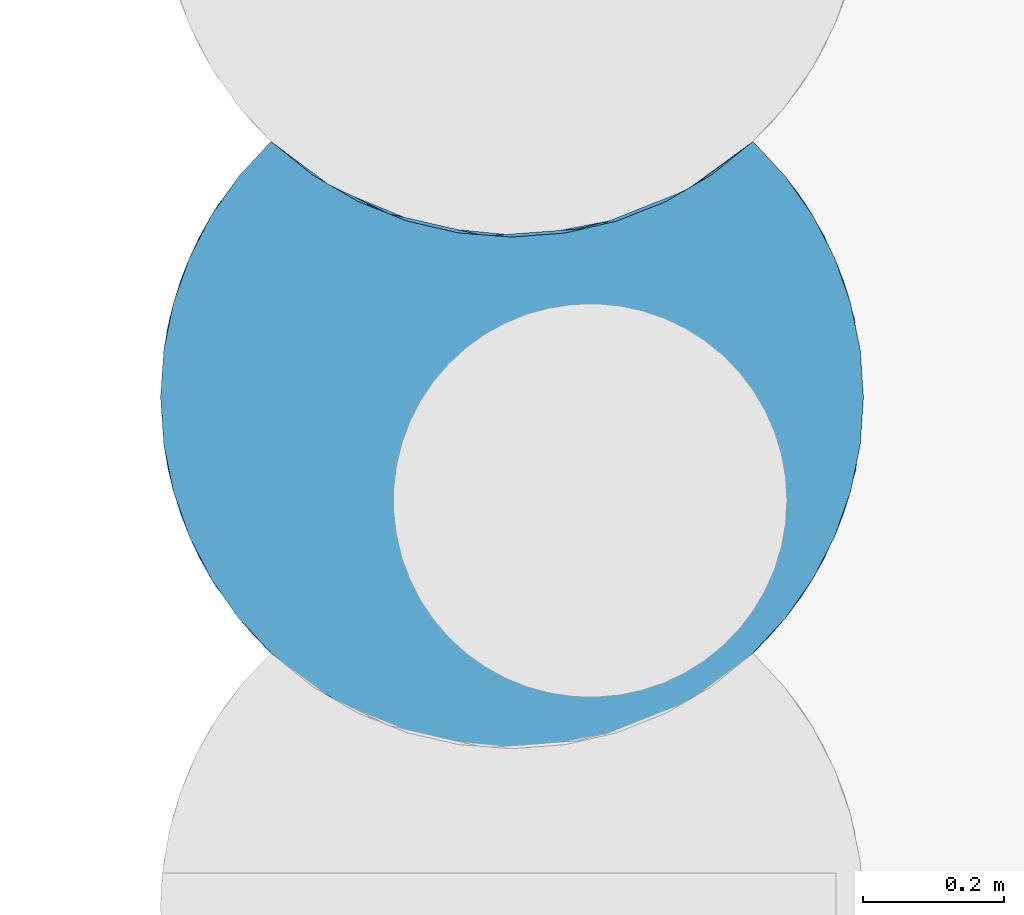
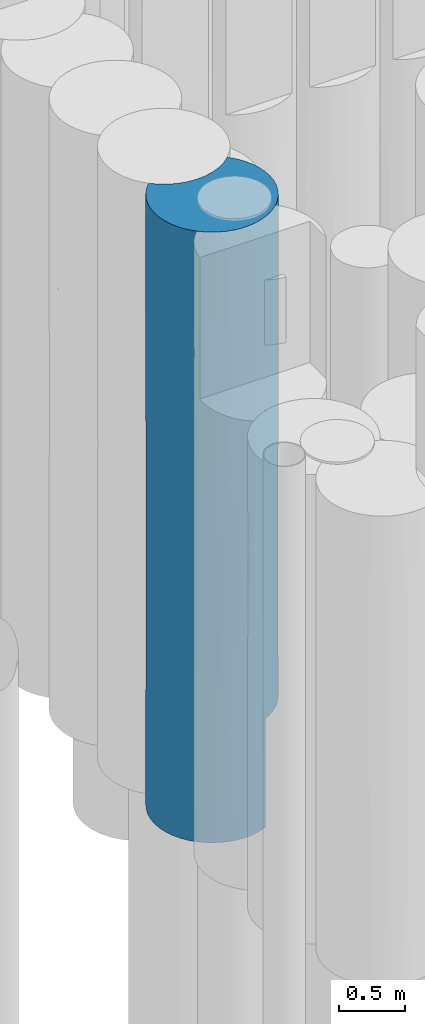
# One storey, part 35 of 104: 1 pile.
"""IFC2X3 building model written with IfcOpenShell, lengths in millimetres."""

from ifc_helpers import new_model, entity, si_unit, converted_unit, derived_unit, direction, frame, origin, place, context, subcontext, project, spatial, faceted_brep, source, transform, mapped, material, element, save


model = new_model("IFC2X3")

# Units and contexts
model_context = context("Model", 3, precision=0.01, world=origin(), true_north=direction((6.12303176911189e-17, 1.0)))
body_context = subcontext(model_context, "Body", "Model", "MODEL_VIEW")
ifc_project = project(units=[si_unit("LENGTHUNIT", "METRE", prefix="MILLI"), si_unit("AREAUNIT", "SQUARE_METRE", prefix="MILLI"), si_unit("VOLUMEUNIT", "CUBIC_METRE"), converted_unit("PLANEANGLEUNIT", "DEGREE", entity("IfcRatioMeasure", 0.0174532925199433), si_unit("PLANEANGLEUNIT", "RADIAN"), dimensions=[0, 0, 0, 0, 0, 0, 0]), si_unit("MASSUNIT", "GRAM", prefix="KILO"), derived_unit("MASSDENSITYUNIT", [(si_unit("MASSUNIT", "GRAM", prefix="KILO"), 1), (si_unit("LENGTHUNIT", "METRE"), -3)]), derived_unit("MOMENTOFINERTIAUNIT", [(si_unit("LENGTHUNIT", "METRE"), 4)]), si_unit("TIMEUNIT", "SECOND"), si_unit("FREQUENCYUNIT", "HERTZ"), si_unit("THERMODYNAMICTEMPERATUREUNIT", "DEGREE_CELSIUS"), derived_unit("THERMALTRANSMITTANCEUNIT", [(si_unit("MASSUNIT", "GRAM", prefix="KILO"), 1), (si_unit("THERMODYNAMICTEMPERATUREUNIT", "KELVIN"), -1), (si_unit("TIMEUNIT", "SECOND"), -3)]), derived_unit("VOLUMETRICFLOWRATEUNIT", [(si_unit("LENGTHUNIT", "METRE"), 3), (si_unit("TIMEUNIT", "SECOND"), -1)]), si_unit("ELECTRICCURRENTUNIT", "AMPERE"), si_unit("ELECTRICVOLTAGEUNIT", "VOLT"), si_unit("POWERUNIT", "WATT"), si_unit("FORCEUNIT", "NEWTON", prefix="KILO"), si_unit("ILLUMINANCEUNIT", "LUX"), si_unit("LUMINOUSFLUXUNIT", "LUMEN"), si_unit("LUMINOUSINTENSITYUNIT", "CANDELA"), derived_unit("USERDEFINED", [(si_unit("MASSUNIT", "GRAM", prefix="KILO"), -1), (si_unit("LENGTHUNIT", "METRE"), -2), (si_unit("TIMEUNIT", "SECOND"), 3), (si_unit("LUMINOUSFLUXUNIT", "LUMEN"), 1)]), derived_unit("LINEARVELOCITYUNIT", [(si_unit("LENGTHUNIT", "METRE"), 1), (si_unit("TIMEUNIT", "SECOND"), -1)]), si_unit("PRESSUREUNIT", "PASCAL"), derived_unit("USERDEFINED", [(si_unit("LENGTHUNIT", "METRE"), -2), (si_unit("MASSUNIT", "GRAM", prefix="KILO"), 1), (si_unit("TIMEUNIT", "SECOND"), -2)]), derived_unit("LINEARFORCEUNIT", [(si_unit("MASSUNIT", "GRAM", prefix="KILO"), 1), (si_unit("LENGTHUNIT", "METRE"), 1), (si_unit("TIMEUNIT", "SECOND"), -2), (si_unit("LENGTHUNIT", "METRE"), -1)]), derived_unit("PLANARFORCEUNIT", [(si_unit("MASSUNIT", "GRAM", prefix="KILO"), 1), (si_unit("LENGTHUNIT", "METRE"), 1), (si_unit("TIMEUNIT", "SECOND"), -2), (si_unit("LENGTHUNIT", "METRE"), -2)])], contexts=[model_context])

# Site, building, storey
site_placement = place(None, origin())
site = spatial("IfcSite", under=ifc_project, at=site_placement, Name="Theater aan de Parade", CompositionType="ELEMENT")
building_placement = place(site_placement, origin())
building = spatial("IfcBuilding", under=site, at=building_placement, Name="Theater aan de Parade", CompositionType="ELEMENT")
storey_placement = place(building_placement, frame((0.0, 0.0, -5520.0)))
storey = spatial("IfcBuildingStorey", under=building, at=storey_placement, Name="-2 kelder", CompositionType="ELEMENT", Elevation=-5520.0)

# Pile
ifc_material = material(Name="00_PBT_MAT_grout")
shared_shape = source(origin(), body_context, "Body", "Brep", [
    faceted_brep([(277.983647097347, 782.384090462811, 0.0), (345.360214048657, 754.631477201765, 0.0), (416.054292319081, 736.966871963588, 0.0), (488.564411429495, 729.765104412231, 0.0), (561.350615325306, 733.17881504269, 0.0), (632.867156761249, 747.135230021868, 0.0), (701.595316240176, 771.337721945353, 0.0), (701.595316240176, 43.3377219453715, 0.0), (632.861071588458, 19.1335743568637, 0.0), (561.341488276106, 5.17771647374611, 0.0), (488.55325423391, 1.76539541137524, 0.0), (416.042931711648, 8.9688447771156, 0.0), (345.350318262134, 26.6347324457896, 0.0), (277.976547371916, 54.3876404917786, 0.0), (215.352244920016, 91.6380435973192, 0.0), (158.803286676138, 137.6056309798, 0.0), (112.656322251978, 187.387549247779, 0.0), (73.6765052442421, 242.972904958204, 0.0), (42.5853143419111, 303.328132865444, 0.0), (19.9560911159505, 367.342900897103, 0.0), (6.20801873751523, 433.83489243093, 0.0), (1.5952722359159, 501.595272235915, 0.0), (6.20818208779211, 569.3568462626, 0.0), (19.955508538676, 635.845553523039, 0.0), (42.583337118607, 699.857834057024, 0.0), (73.6726367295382, 760.211238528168, 0.0), (112.651085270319, 815.796512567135, 0.0), (158.80670766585, 865.59527223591, 0.0), (215.356100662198, 819.635351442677, 0.0), (844.383836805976, 865.59527223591, 2561.53757028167), (925.562729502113, 766.645447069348, 2004.37664659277), (890.538738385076, 815.797404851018, 1000.0), (844.383836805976, 865.59527223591, 1000.0), (960.61285484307, 699.844758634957, 1000.0), (973.014264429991, 668.22100193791, 2043.51621874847), (929.521362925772, 760.205521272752, 1000.0), (988.918247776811, 613.471621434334, 3074.8464073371), (946.092881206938, 730.553512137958, 2936.01181508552), (996.982276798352, 569.35747195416, 5620.0), (973.01057745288, 668.231432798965, 4223.55865313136), (983.235934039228, 635.842331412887, 5620.0), (1001.59527223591, 501.595272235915, 1000.0), (996.985169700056, 569.336319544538, 1000.0), (1001.59527223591, 501.595272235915, 2561.53772996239), (983.239874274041, 635.828194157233, 1000.0), (1001.59527223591, 501.595272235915, 5620.0), (1001.59527223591, 501.595272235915, 4123.0754599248), (921.086992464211, 773.673747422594, 3953.28672590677), (910.979243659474, 788.657571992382, 4807.59706393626), (844.383836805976, 865.59527223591, 5620.0), (890.546518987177, 815.787773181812, 5620.0), (929.522999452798, 760.202813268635, 5620.0), (960.609902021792, 699.851595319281, 5620.0), (844.38383680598, 865.59527223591, 4123.07557016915), (134.889135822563, 161.703216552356, 1387.6537900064), (57.1053071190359, 272.622193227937, 1043.55298077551), (77.4295682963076, 236.862471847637, 3732.46969076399), (57.0986428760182, 272.635130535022, 4676.41921043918), (30.1799661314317, 334.959114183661, 3903.08946832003), (80.5921488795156, 231.861384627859, 2115.29297336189), (17.9787583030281, 374.650136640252, 1004.4354331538), (245.98492487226, 71.8705343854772, 950.268780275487), (1.5952722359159, 501.595272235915, 4058.46482087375), (11.9517035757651, 400.357059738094, 4676.41592085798), (1.5952722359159, 501.595272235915, 5620.0), (6.20826767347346, 433.833072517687, 5620.0), (112.644025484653, 187.402771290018, 5620.0), (134.878781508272, 161.714388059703, 4258.15025045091), (525.009616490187, 2.14380464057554, 1462.58935629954), (380.374383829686, 16.5122935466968, 950.269609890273), (344.134639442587, 27.0363727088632, 3463.60033950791), (249.344536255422, 69.8898562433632, 3910.63302773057), (283.246122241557, 51.7912608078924, 2817.04243556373), (996.982276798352, 433.83307251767, 5620.0), (973.010578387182, 334.959114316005, 4401.73379938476), (158.806707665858, 137.59527223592, 5620.0), (868.311763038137, 161.714388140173, 4220.64805884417), (753.846008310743, 69.8898562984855, 4474.12332022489), (777.063915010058, 84.3219483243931, 3303.49543864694), (720.545942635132, 52.0837552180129, 5620.0), (650.395275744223, 24.2499475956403, 5620.0), (632.213529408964, 18.9578608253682, 4763.8820873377), (539.331900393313, 3.0213590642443, 4658.26851578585), (506.990602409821, 1.62438267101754, 3686.89357512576), (613.944699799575, 14.3811446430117, 3907.57254843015), (311.157199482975, 39.2822392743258, 1702.73276851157), (960.608068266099, 303.334703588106, 1000.0), (983.237088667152, 367.35235560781, 1000.0), (973.010524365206, 334.958961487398, 2218.26297027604), (1.5952722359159, 501.595272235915, 3123.07035825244), (19.9546104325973, 367.34821305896, 5620.0), (44.1578120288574, 299.726577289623, 2919.61020126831), (134.889135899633, 161.70321646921, 2809.99443914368), (30.1828485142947, 334.950960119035, 1936.10278825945), (11.632888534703, 401.911459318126, 2715.80418923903), (42.5806424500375, 303.338949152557, 5620.0), (73.6675450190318, 242.987731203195, 5620.0), (210.33848796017, 95.1847831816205, 1973.56661371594), (203.830541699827, 99.9285381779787, 3144.87709953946), (249.344536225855, 69.8898562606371, 4800.54953955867), (282.644601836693, 52.0837552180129, 5620.0), (217.483259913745, 90.1583214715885, 5620.0), (616.668596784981, 15.0172928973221, 1813.49239707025), (605.423121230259, 12.4942828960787, 898.43797945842), (576.853265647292, 7.29148464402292, 5620.0), (501.595272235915, 1.5952722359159, 5620.0), (389.24584477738, 14.3811446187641, 4236.80661635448), (352.795268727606, 24.2499475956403, 5620.0), (426.337278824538, 7.29148464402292, 5620.0), (752.718177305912, 69.2328241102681, 1000.0), (706.241744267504, 45.39375811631, 2271.23175715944), (701.595316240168, 43.3377219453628, 1000.0), (990.787983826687, 398.200441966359, 3331.95295130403), (996.984106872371, 433.846452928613, 1000.0), (800.505678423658, 100.780390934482, 1000.0), (822.972350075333, 118.55901567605, 2196.87374705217), (1.5952722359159, 501.595272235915, 1561.53517912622), (912.474389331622, 216.677124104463, 2242.39719517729), (929.515196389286, 242.974819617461, 1000.0), (844.383836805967, 137.595272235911, 1000.0), (927.789541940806, 240.14079346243, 4627.43324064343), (890.546518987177, 187.402771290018, 5620.0), (785.707284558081, 90.1583214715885, 5620.0), (983.235934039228, 367.348213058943, 5620.0), (703.993537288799, 44.3918795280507, 3751.3726491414), (585.475880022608, 8.68144240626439, 2686.9745309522), (844.383836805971, 137.59527223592, 5620.0), (866.129625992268, 159.375014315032, 3135.28364369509), (890.532271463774, 187.385134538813, 1000.0), (960.609902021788, 303.338949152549, 5620.0), (946.091901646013, 272.63513063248, 3310.00287078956), (929.522999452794, 242.987731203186, 5620.0), (412.137178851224, 9.6631127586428, 1890.85662457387), (452.166694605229, 4.04445501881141, 2805.10305387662), (365.43385933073, 20.4923002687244, 2602.55453647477), (785.695330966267, 818.150067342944, 5620.0), (720.53458465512, 780.078223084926, 5620.0), (650.386060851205, 752.247075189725, 5620.0), (576.847851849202, 735.290660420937, 5620.0), (501.595272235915, 729.595272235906, 5620.0), (426.342692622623, 735.290660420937, 5620.0), (352.804483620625, 752.247075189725, 5620.0), (282.655959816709, 780.078223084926, 5620.0), (217.495213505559, 818.150067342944, 5620.0), (158.80670766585, 865.59527223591, 5620.0), (112.651085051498, 815.796512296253, 5620.0), (73.6726367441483, 760.211238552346, 5620.0), (42.5833372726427, 699.857834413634, 5620.0), (19.9555086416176, 635.84555389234, 5620.0), (6.20818208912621, 569.356846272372, 5620.0), (380.385030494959, 744.50963309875, 924.275465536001), (158.80670766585, 865.59527223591, 1561.53835800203), (245.990356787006, 799.867303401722, 924.276593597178), (234.516339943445, 806.902897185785, 2528.73879673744), (311.165685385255, 767.278743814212, 1643.61885605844), (233.568091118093, 807.503540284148, 1720.94598732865), (249.356261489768, 797.883005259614, 4653.15154121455), (613.937329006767, 742.379445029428, 4657.5864905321), (753.83428304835, 797.883005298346, 4657.58649064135), (463.861374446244, 731.021152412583, 4239.53806968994), (568.099118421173, 734.037769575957, 3565.77493434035), (525.01978227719, 730.14428131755, 1444.27819300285), (229.918347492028, 809.843382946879, 3590.76885371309), (158.80670766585, 865.59527223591, 3123.07671600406), (158.80670766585, 865.59527223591, 4058.46164199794), (463.861374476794, 731.02115241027, 2816.1191413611), (317.204383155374, 764.837270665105, 3895.88208545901), (335.873418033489, 757.857774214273, 2764.08817655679), (335.460581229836, 758.003007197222, 4756.81311890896), (668.838073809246, 758.394842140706, 2439.83993683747), (744.325145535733, 792.465762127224, 2923.53519747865), (764.865708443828, 804.520364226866, 2048.02698245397), (701.595316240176, 771.337721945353, 1000.0), (605.974790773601, 740.611718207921, 894.949894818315), (685.986161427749, 764.83727070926, 3905.98762819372), (772.723458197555, 809.488730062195, 3773.137560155), (800.501613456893, 828.777359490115, 1000.0), (414.783427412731, 737.189236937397, 1897.22784494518), (566.969314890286, 733.887460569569, 2589.73847091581), (752.696294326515, 797.220114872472, 1000.0), (158.80670766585, 865.59527223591, 2496.92232234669), (57.102452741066, 730.562810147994, 1018.52402144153), (85.1504971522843, 778.314894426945, 2044.13391688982), (30.1816558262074, 668.23621037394, 1881.69076385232), (30.1816560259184, 668.236210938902, 4576.5183253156), (11.9519782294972, 602.83481310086, 1018.52772992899), (77.6358010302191, 766.658220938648, 4615.63922128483), (57.1024528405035, 730.56281034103, 3684.03274752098), (82.4179959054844, 774.157945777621, 2928.9250106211), (38.2329027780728, 689.465745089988, 2818.71767273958), (14.6796564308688, 615.231459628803, 3556.7607665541), (9.93850407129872, 592.554726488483, 2577.75842466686)], [[[0, 1, 2, 3, 4, 5, 6, 7, 8, 9, 10, 11, 12, 13, 14, 15, 16, 17, 18, 19, 20, 21, 22, 23, 24, 25, 26, 27, 28]], [[29, 30, 31]], [[29, 31, 32]], [[33, 30, 34]], [[33, 35, 30]], [[36, 34, 37]], [[38, 39, 40]], [[41, 42, 43]], [[42, 44, 34]], [[38, 45, 46]], [[34, 36, 43]], [[38, 46, 39]], [[39, 47, 48]], [[48, 49, 50]], [[44, 33, 34]], [[36, 46, 43]], [[50, 51, 48]], [[42, 34, 43]], [[37, 47, 39]], [[46, 36, 39]], [[39, 52, 40]], [[48, 52, 39]], [[37, 39, 36]], [[31, 30, 35]], [[37, 34, 30]], [[29, 37, 30]], [[47, 29, 53]], [[29, 47, 37]], [[49, 48, 53]], [[48, 51, 52]], [[53, 48, 47]], [[54, 55, 16]], [[56, 57, 58]], [[59, 55, 54]], [[60, 20, 19]], [[14, 13, 61]], [[62, 58, 63]], [[64, 63, 65]], [[18, 55, 60]], [[54, 16, 15]], [[66, 57, 67]], [[68, 69, 10]], [[70, 71, 72]], [[73, 74, 46]], [[61, 12, 69]], [[75, 66, 67]], [[76, 77, 78]], [[79, 80, 81]], [[11, 69, 12]], [[61, 13, 12]], [[82, 83, 84]], [[16, 55, 17]], [[69, 85, 61]], [[60, 19, 18]], [[63, 58, 57]], [[55, 18, 17]], [[86, 87, 88]], [[62, 89, 58]], [[90, 65, 63]], [[91, 92, 56]], [[93, 91, 94]], [[63, 57, 90]], [[56, 67, 57]], [[90, 57, 95]], [[57, 96, 95]], [[97, 72, 98]], [[54, 61, 97]], [[67, 99, 75]], [[99, 100, 101]], [[102, 68, 103]], [[82, 104, 105]], [[106, 107, 99]], [[106, 108, 107]], [[82, 84, 81]], [[72, 71, 98]], [[109, 110, 111]], [[10, 69, 11]], [[111, 103, 8]], [[112, 88, 43]], [[113, 88, 87]], [[7, 111, 8]], [[109, 114, 115]], [[94, 116, 93]], [[67, 71, 99]], [[110, 115, 78]], [[9, 68, 10]], [[93, 60, 55]], [[43, 88, 113]], [[15, 14, 61]], [[112, 46, 74]], [[73, 46, 45]], [[86, 117, 118]], [[99, 107, 100]], [[114, 119, 115]], [[117, 86, 88]], [[76, 120, 121]], [[79, 77, 122]], [[21, 20, 116]], [[73, 123, 74]], [[78, 77, 124]], [[108, 106, 82]], [[81, 104, 82]], [[113, 41, 43]], [[109, 115, 110]], [[77, 79, 81]], [[125, 68, 102]], [[103, 9, 8]], [[126, 77, 76]], [[59, 92, 91]], [[126, 122, 77]], [[127, 76, 78]], [[127, 78, 115]], [[128, 118, 117]], [[121, 126, 76]], [[74, 129, 120]], [[98, 67, 92]], [[66, 96, 57]], [[123, 129, 74]], [[130, 74, 120]], [[129, 131, 120]], [[119, 128, 115]], [[64, 62, 63]], [[132, 85, 69]], [[112, 74, 130]], [[88, 130, 117]], [[132, 68, 133]], [[97, 61, 85]], [[15, 61, 54]], [[108, 82, 105]], [[106, 70, 83]], [[99, 101, 75]], [[106, 99, 71]], [[97, 85, 72]], [[92, 54, 97]], [[134, 85, 132]], [[72, 134, 70]], [[124, 110, 78]], [[83, 125, 84]], [[91, 56, 58]], [[92, 67, 56]], [[94, 58, 89]], [[91, 93, 59]], [[55, 59, 93]], [[54, 92, 59]], [[106, 83, 82]], [[125, 83, 133]], [[68, 125, 133]], [[125, 110, 124]], [[88, 112, 130]], [[46, 112, 43]], [[68, 132, 69]], [[134, 132, 133]], [[127, 130, 76]], [[117, 115, 128]], [[58, 94, 91]], [[116, 94, 89]], [[93, 116, 60]], [[20, 60, 116]], [[115, 117, 127]], [[130, 127, 117]], [[81, 84, 124]], [[104, 81, 80]], [[133, 83, 70]], [[85, 134, 72]], [[133, 70, 134]], [[71, 70, 106]], [[102, 111, 110]], [[9, 103, 68]], [[111, 102, 103]], [[110, 125, 102]], [[121, 120, 131]], [[130, 120, 76]], [[81, 124, 77]], [[124, 84, 125]], [[67, 98, 71]], [[97, 98, 92]], [[135, 136, 137, 138, 139, 140, 141, 142, 143, 144, 145, 146, 147, 148, 149, 64, 65, 90, 95, 96, 66, 75, 101, 100, 107, 108, 105, 104, 80, 79, 122, 126, 121, 131, 129, 123, 73, 45, 38, 40, 52, 51, 50, 49]], [[0, 150, 1]], [[151, 152, 27]], [[153, 154, 155]], [[156, 143, 142]], [[152, 154, 150]], [[138, 157, 139]], [[53, 158, 49]], [[28, 27, 152]], [[159, 157, 160]], [[159, 140, 139]], [[152, 150, 0]], [[158, 135, 49]], [[157, 137, 136, 158]], [[161, 4, 3]], [[162, 163, 164]], [[165, 166, 159]], [[155, 154, 152]], [[162, 167, 153]], [[168, 156, 142]], [[169, 170, 171]], [[172, 169, 171]], [[2, 150, 3]], [[5, 173, 172]], [[156, 164, 144]], [[174, 160, 157]], [[5, 172, 6]], [[175, 158, 53]], [[168, 166, 156]], [[171, 29, 32]], [[168, 141, 140]], [[150, 161, 3]], [[157, 158, 174]], [[168, 142, 141]], [[0, 28, 152]], [[169, 173, 161]], [[176, 171, 32]], [[159, 139, 157]], [[5, 4, 173]], [[167, 177, 154]], [[158, 136, 135]], [[2, 1, 150]], [[174, 169, 160]], [[150, 154, 177]], [[174, 158, 175]], [[138, 137, 157]], [[165, 161, 177]], [[143, 156, 144]], [[164, 156, 162]], [[160, 165, 159]], [[169, 178, 160]], [[178, 165, 160]], [[171, 179, 172]], [[150, 177, 161]], [[166, 165, 167]], [[177, 167, 165]], [[162, 166, 167]], [[153, 163, 162]], [[166, 162, 156]], [[153, 151, 180, 163]], [[153, 167, 154]], [[169, 174, 170]], [[175, 53, 29]], [[168, 159, 166]], [[159, 168, 140]], [[155, 151, 153]], [[155, 152, 151]], [[178, 161, 165]], [[178, 169, 161]], [[172, 173, 169]], [[161, 173, 4]], [[179, 171, 176]], [[175, 29, 170]], [[171, 170, 29]], [[175, 170, 174]], [[24, 23, 181]], [[182, 181, 183]], [[149, 184, 62]], [[25, 24, 181]], [[151, 181, 182]], [[151, 27, 26]], [[185, 181, 23]], [[164, 186, 145]], [[187, 184, 186]], [[186, 147, 146]], [[183, 181, 185]], [[26, 181, 151]], [[147, 186, 184]], [[26, 25, 181]], [[188, 164, 163, 180]], [[64, 149, 62]], [[144, 164, 145]], [[188, 182, 189]], [[190, 191, 89]], [[22, 185, 23]], [[184, 190, 62]], [[116, 185, 21]], [[149, 148, 184]], [[190, 184, 187]], [[191, 116, 89]], [[147, 184, 148]], [[21, 185, 22]], [[191, 185, 116]], [[182, 183, 189]], [[151, 182, 180]], [[191, 189, 183]], [[62, 190, 89]], [[145, 186, 146]], [[164, 187, 186]], [[189, 190, 187]], [[191, 183, 185]], [[190, 189, 191]], [[189, 187, 188]], [[164, 188, 187]], [[180, 182, 188]], [[31, 35, 33, 44, 42, 41, 113, 87, 86, 118, 128, 119, 114, 109, 111, 172, 179, 176, 32]], [[111, 7, 6, 172]]]),
])
pile_placement = place(storey_placement, frame((34252.2628578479, 40495.2179922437, -3840.0)))
element("IfcPile", 1, at=pile_placement, inside=storey, material=ifc_material, Name="17_PBT_SFO_grondkering_rond:Ø1000 (grondkering)", ObjectType="17_PBT_SFO_grondkering_rond:Ø1000 (grondkering)", PredefinedType="NOTDEFINED", context=body_context, shape_type="MappedRepresentation", body=[
    mapped(shared_shape, transform((0.0, 0.0, 0.0), scale=1.0)),
])

save(model, "model.ifc")
